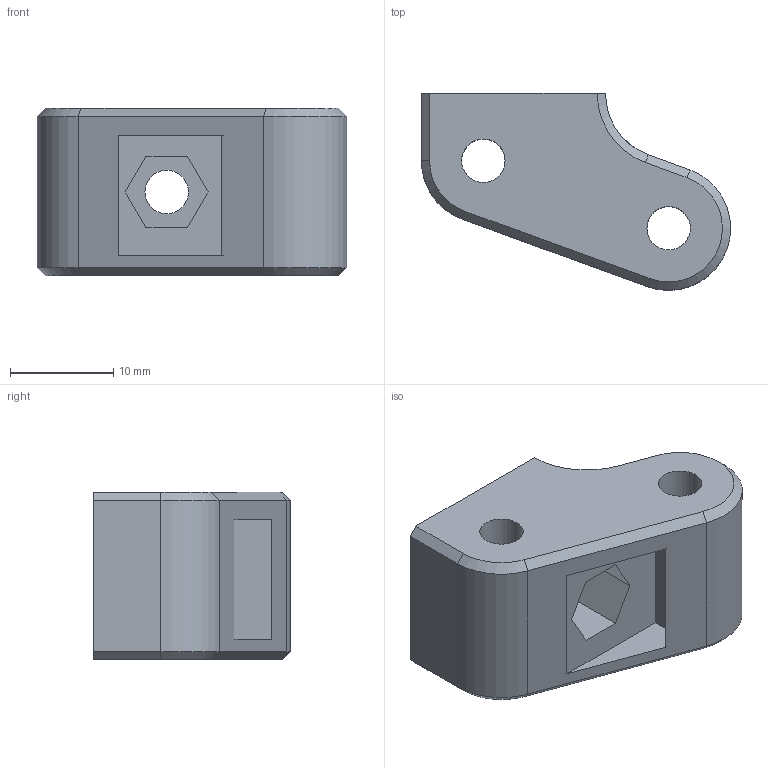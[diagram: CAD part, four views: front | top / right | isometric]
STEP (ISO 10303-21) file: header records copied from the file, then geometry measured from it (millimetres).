
FILE_DESCRIPTION(('sldprt2step conversion of Parasolid XT B-rep'),'2;1');
FILE_NAME('2F distal.SLDPRT','',(''),(''),'sldprt2step','','');
FILE_SCHEMA(('AUTOMOTIVE_DESIGN { 1 0 10303 214 1 1 1 1 }'));
Length unit declared in the file: millimetre
Products named in the file (1): 2F distal
Bounding box: 29.9 x 19.02 x 16.2 mm (x, y, z)
Volume: 5014.4 mm3; surface area: 2773.3 mm2
Topology: 1 solids, 1 shells, 40 faces, 99 edges, 63 vertices
Faces by surface type: plane 27, cylinder 7, cone 6
Full cylindrical faces by diameter (mm): 4.2 x3
Entity records: 1170 total; most frequent: DIRECTION 199, CARTESIAN_POINT 198, ORIENTED_EDGE 190, EDGE_CURVE 95, VECTOR 73, LINE 73, AXIS2_PLACEMENT_3D 63, VERTEX_POINT 62
